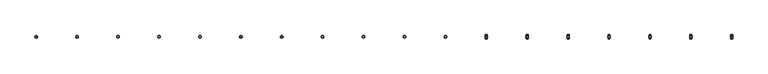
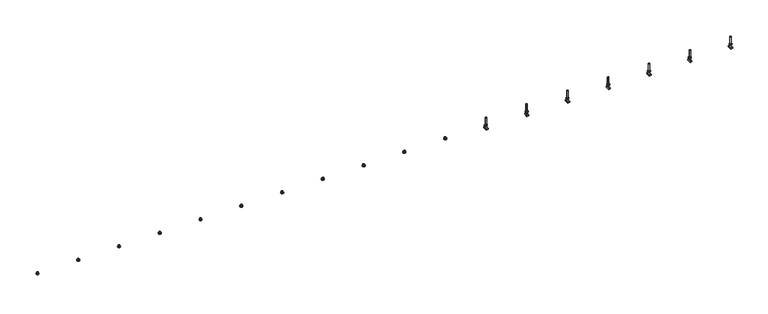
"""IFC4 building model written with IfcOpenShell, lengths in millimetres: fastener geometry, JTA-K JORDAHL® AnchorChannels : JTA-K L=6000 mm."""

from ifc_helpers import new_model, si_unit, point, frame, frame_2d, origin, place, context, project, spatial, polyline, circle_curve, trimmed, segment, composite_curve, outline, extrude, source, transform, mapped, element, save
from ifc_brep_helpers import plane_surface, cylinder_surface, advanced_brep


def fastener_92da6513(model_context):
    return source(origin(), model_context, "Body", "SolidModel", [
        extrude(outline(polyline([(5617.1052632, 9.2376043), (5625.1052632, 4.6188022), (5625.1052632, -4.6188022), (5617.1052632, -9.2376043), (5609.1052632, -4.6188022), (5609.1052632, 4.6188022), (5617.1052632, 9.2376043)]), holes=[composite_curve([segment(trimmed(circle_curve(frame_2d((5617.1052632, 0.0)), 5.0), [point((5612.1052632, 0.0))], [point((5622.1052632, 0.0))], True, "CARTESIAN"), True, "CONTINUOUS"), segment(trimmed(circle_curve(frame_2d((5617.1052632, 0.0)), 5.0), [point((5622.1052632, 0.0))], [point((5612.1052632, 0.0))], True, "CARTESIAN"), True, "CONTINUOUS")], self_intersect=False)]), frame((0.0, 0.0, 17.0), z_axis=(0.0, 0.0, 1.0), x_axis=(1.0, 0.0, 0.0)), (0.0, 0.0, 1.0), 8.4),
        extrude(outline(composite_curve([segment(trimmed(circle_curve(frame_2d((5617.1052632, 0.0)), 10.0), [point((5607.1052632, 0.0))], [point((5627.1052632, 0.0))], False, "CARTESIAN"), True, "CONTINUOUS"), segment(trimmed(circle_curve(frame_2d((5617.1052632, 0.0)), 10.0), [point((5627.1052632, 0.0))], [point((5607.1052632, 0.0))], False, "CARTESIAN"), True, "CONTINUOUS")], self_intersect=False), holes=[composite_curve([segment(trimmed(circle_curve(frame_2d((5617.1052632, 0.0)), 5.25), [point((5611.8552632, 0.0))], [point((5622.3552632, 0.0))], True, "CARTESIAN"), True, "CONTINUOUS"), segment(trimmed(circle_curve(frame_2d((5617.1052632, 0.0)), 5.25), [point((5622.3552632, 0.0))], [point((5611.8552632, 0.0))], True, "CARTESIAN"), True, "CONTINUOUS")], self_intersect=False)]), frame((0.0, 0.0, 15.0), z_axis=(0.0, 0.0, 1.0), x_axis=(1.0, 0.0, 0.0)), (0.0, 0.0, 1.0), 2.0),
        extrude(outline(polyline([(5309.2105263, 9.2376043), (5317.2105263, 4.6188022), (5317.2105263, -4.6188022), (5309.2105263, -9.2376043), (5301.2105263, -4.6188022), (5301.2105263, 4.6188022), (5309.2105263, 9.2376043)]), holes=[composite_curve([segment(trimmed(circle_curve(frame_2d((5309.2105263, 0.0)), 5.0), [point((5304.2105263, 0.0))], [point((5314.2105263, 0.0))], True, "CARTESIAN"), True, "CONTINUOUS"), segment(trimmed(circle_curve(frame_2d((5309.2105263, 0.0)), 5.0), [point((5314.2105263, 0.0))], [point((5304.2105263, 0.0))], True, "CARTESIAN"), True, "CONTINUOUS")], self_intersect=False)]), frame((0.0, 0.0, 17.0), z_axis=(0.0, 0.0, 1.0), x_axis=(1.0, 0.0, 0.0)), (0.0, 0.0, 1.0), 8.4),
        extrude(outline(composite_curve([segment(trimmed(circle_curve(frame_2d((5309.2105263, 0.0)), 10.0), [point((5299.2105263, 0.0))], [point((5319.2105263, 0.0))], False, "CARTESIAN"), True, "CONTINUOUS"), segment(trimmed(circle_curve(frame_2d((5309.2105263, 0.0)), 10.0), [point((5319.2105263, 0.0))], [point((5299.2105263, 0.0))], False, "CARTESIAN"), True, "CONTINUOUS")], self_intersect=False), holes=[composite_curve([segment(trimmed(circle_curve(frame_2d((5309.2105263, 0.0)), 5.25), [point((5303.9605263, 0.0))], [point((5314.4605263, 0.0))], True, "CARTESIAN"), True, "CONTINUOUS"), segment(trimmed(circle_curve(frame_2d((5309.2105263, 0.0)), 5.25), [point((5314.4605263, 0.0))], [point((5303.9605263, 0.0))], True, "CARTESIAN"), True, "CONTINUOUS")], self_intersect=False)]), frame((0.0, 0.0, 15.0), z_axis=(0.0, 0.0, 1.0), x_axis=(1.0, 0.0, 0.0)), (0.0, 0.0, 1.0), 2.0),
        extrude(outline(polyline([(5001.3157895, 9.2376043), (5009.3157895, 4.6188022), (5009.3157895, -4.6188022), (5001.3157895, -9.2376043), (4993.3157895, -4.6188022), (4993.3157895, 4.6188022), (5001.3157895, 9.2376043)]), holes=[composite_curve([segment(trimmed(circle_curve(frame_2d((5001.3157895, 0.0)), 5.0), [point((4996.3157895, 0.0))], [point((5006.3157895, 0.0))], True, "CARTESIAN"), True, "CONTINUOUS"), segment(trimmed(circle_curve(frame_2d((5001.3157895, 0.0)), 5.0), [point((5006.3157895, 0.0))], [point((4996.3157895, 0.0))], True, "CARTESIAN"), True, "CONTINUOUS")], self_intersect=False)]), frame((0.0, 0.0, 17.0), z_axis=(0.0, 0.0, 1.0), x_axis=(1.0, 0.0, 0.0)), (0.0, 0.0, 1.0), 8.4),
        extrude(outline(composite_curve([segment(trimmed(circle_curve(frame_2d((5001.3157895, 0.0)), 10.0), [point((4991.3157895, 0.0))], [point((5011.3157895, 0.0))], False, "CARTESIAN"), True, "CONTINUOUS"), segment(trimmed(circle_curve(frame_2d((5001.3157895, 0.0)), 10.0), [point((5011.3157895, 0.0))], [point((4991.3157895, 0.0))], False, "CARTESIAN"), True, "CONTINUOUS")], self_intersect=False), holes=[composite_curve([segment(trimmed(circle_curve(frame_2d((5001.3157895, 0.0)), 5.25), [point((4996.0657895, 0.0))], [point((5006.5657895, 0.0))], True, "CARTESIAN"), True, "CONTINUOUS"), segment(trimmed(circle_curve(frame_2d((5001.3157895, 0.0)), 5.25), [point((5006.5657895, 0.0))], [point((4996.0657895, 0.0))], True, "CARTESIAN"), True, "CONTINUOUS")], self_intersect=False)]), frame((0.0, 0.0, 15.0), z_axis=(0.0, 0.0, 1.0), x_axis=(1.0, 0.0, 0.0)), (0.0, 0.0, 1.0), 2.0),
        extrude(outline(polyline([(4693.4210526, 9.2376043), (4701.4210526, 4.6188022), (4701.4210526, -4.6188022), (4693.4210526, -9.2376043), (4685.4210526, -4.6188022), (4685.4210526, 4.6188022), (4693.4210526, 9.2376043)]), holes=[composite_curve([segment(trimmed(circle_curve(frame_2d((4693.4210526, 0.0)), 5.0), [point((4688.4210526, 0.0))], [point((4698.4210526, 0.0))], True, "CARTESIAN"), True, "CONTINUOUS"), segment(trimmed(circle_curve(frame_2d((4693.4210526, 0.0)), 5.0), [point((4698.4210526, 0.0))], [point((4688.4210526, 0.0))], True, "CARTESIAN"), True, "CONTINUOUS")], self_intersect=False)]), frame((0.0, 0.0, 17.0), z_axis=(0.0, 0.0, 1.0), x_axis=(1.0, 0.0, 0.0)), (0.0, 0.0, 1.0), 8.4),
        extrude(outline(composite_curve([segment(trimmed(circle_curve(frame_2d((4693.4210526, 0.0)), 10.0), [point((4683.4210526, 0.0))], [point((4703.4210526, 0.0))], False, "CARTESIAN"), True, "CONTINUOUS"), segment(trimmed(circle_curve(frame_2d((4693.4210526, 0.0)), 10.0), [point((4703.4210526, 0.0))], [point((4683.4210526, 0.0))], False, "CARTESIAN"), True, "CONTINUOUS")], self_intersect=False), holes=[composite_curve([segment(trimmed(circle_curve(frame_2d((4693.4210526, 0.0)), 5.25), [point((4688.1710526, 0.0))], [point((4698.6710526, 0.0))], True, "CARTESIAN"), True, "CONTINUOUS"), segment(trimmed(circle_curve(frame_2d((4693.4210526, 0.0)), 5.25), [point((4698.6710526, 0.0))], [point((4688.1710526, 0.0))], True, "CARTESIAN"), True, "CONTINUOUS")], self_intersect=False)]), frame((0.0, 0.0, 15.0), z_axis=(0.0, 0.0, 1.0), x_axis=(1.0, 0.0, 0.0)), (0.0, 0.0, 1.0), 2.0),
        extrude(outline(polyline([(4385.5263158, 9.2376043), (4393.5263158, 4.6188022), (4393.5263158, -4.6188022), (4385.5263158, -9.2376043), (4377.5263158, -4.6188022), (4377.5263158, 4.6188022), (4385.5263158, 9.2376043)]), holes=[composite_curve([segment(trimmed(circle_curve(frame_2d((4385.5263158, 0.0)), 5.0), [point((4380.5263158, 0.0))], [point((4390.5263158, 0.0))], True, "CARTESIAN"), True, "CONTINUOUS"), segment(trimmed(circle_curve(frame_2d((4385.5263158, 0.0)), 5.0), [point((4390.5263158, 0.0))], [point((4380.5263158, 0.0))], True, "CARTESIAN"), True, "CONTINUOUS")], self_intersect=False)]), frame((0.0, 0.0, 17.0), z_axis=(0.0, 0.0, 1.0), x_axis=(1.0, 0.0, 0.0)), (0.0, 0.0, 1.0), 8.4),
        extrude(outline(composite_curve([segment(trimmed(circle_curve(frame_2d((4385.5263158, 0.0)), 10.0), [point((4375.5263158, 0.0))], [point((4395.5263158, 0.0))], False, "CARTESIAN"), True, "CONTINUOUS"), segment(trimmed(circle_curve(frame_2d((4385.5263158, 0.0)), 10.0), [point((4395.5263158, 0.0))], [point((4375.5263158, 0.0))], False, "CARTESIAN"), True, "CONTINUOUS")], self_intersect=False), holes=[composite_curve([segment(trimmed(circle_curve(frame_2d((4385.5263158, 0.0)), 5.25), [point((4380.2763158, 0.0))], [point((4390.7763158, 0.0))], True, "CARTESIAN"), True, "CONTINUOUS"), segment(trimmed(circle_curve(frame_2d((4385.5263158, 0.0)), 5.25), [point((4390.7763158, 0.0))], [point((4380.2763158, 0.0))], True, "CARTESIAN"), True, "CONTINUOUS")], self_intersect=False)]), frame((0.0, 0.0, 15.0), z_axis=(0.0, 0.0, 1.0), x_axis=(1.0, 0.0, 0.0)), (0.0, 0.0, 1.0), 2.0),
        extrude(outline(polyline([(4077.6315789, 9.2376043), (4085.6315789, 4.6188022), (4085.6315789, -4.6188022), (4077.6315789, -9.2376043), (4069.6315789, -4.6188022), (4069.6315789, 4.6188022), (4077.6315789, 9.2376043)]), holes=[composite_curve([segment(trimmed(circle_curve(frame_2d((4077.6315789, 0.0)), 5.0), [point((4072.6315789, 0.0))], [point((4082.6315789, 0.0))], True, "CARTESIAN"), True, "CONTINUOUS"), segment(trimmed(circle_curve(frame_2d((4077.6315789, 0.0)), 5.0), [point((4082.6315789, 0.0))], [point((4072.6315789, 0.0))], True, "CARTESIAN"), True, "CONTINUOUS")], self_intersect=False)]), frame((0.0, 0.0, 17.0), z_axis=(0.0, 0.0, 1.0), x_axis=(1.0, 0.0, 0.0)), (0.0, 0.0, 1.0), 8.4),
        extrude(outline(composite_curve([segment(trimmed(circle_curve(frame_2d((4077.6315789, 0.0)), 10.0), [point((4067.6315789, 0.0))], [point((4087.6315789, 0.0))], False, "CARTESIAN"), True, "CONTINUOUS"), segment(trimmed(circle_curve(frame_2d((4077.6315789, 0.0)), 10.0), [point((4087.6315789, 0.0))], [point((4067.6315789, 0.0))], False, "CARTESIAN"), True, "CONTINUOUS")], self_intersect=False), holes=[composite_curve([segment(trimmed(circle_curve(frame_2d((4077.6315789, 0.0)), 5.25), [point((4072.3815789, 0.0))], [point((4082.8815789, 0.0))], True, "CARTESIAN"), True, "CONTINUOUS"), segment(trimmed(circle_curve(frame_2d((4077.6315789, 0.0)), 5.25), [point((4082.8815789, 0.0))], [point((4072.3815789, 0.0))], True, "CARTESIAN"), True, "CONTINUOUS")], self_intersect=False)]), frame((0.0, 0.0, 15.0), z_axis=(0.0, 0.0, 1.0), x_axis=(1.0, 0.0, 0.0)), (0.0, 0.0, 1.0), 2.0),
        extrude(outline(polyline([(3769.7368421, 9.2376043), (3777.7368421, 4.6188022), (3777.7368421, -4.6188022), (3769.7368421, -9.2376043), (3761.7368421, -4.6188022), (3761.7368421, 4.6188022), (3769.7368421, 9.2376043)]), holes=[composite_curve([segment(trimmed(circle_curve(frame_2d((3769.7368421, 0.0)), 5.0), [point((3764.7368421, 0.0))], [point((3774.7368421, 0.0))], True, "CARTESIAN"), True, "CONTINUOUS"), segment(trimmed(circle_curve(frame_2d((3769.7368421, 0.0)), 5.0), [point((3774.7368421, 0.0))], [point((3764.7368421, 0.0))], True, "CARTESIAN"), True, "CONTINUOUS")], self_intersect=False)]), frame((0.0, 0.0, 17.0), z_axis=(0.0, 0.0, 1.0), x_axis=(1.0, 0.0, 0.0)), (0.0, 0.0, 1.0), 8.4),
        extrude(outline(composite_curve([segment(trimmed(circle_curve(frame_2d((3769.7368421, 0.0)), 10.0), [point((3759.7368421, 0.0))], [point((3779.7368421, 0.0))], False, "CARTESIAN"), True, "CONTINUOUS"), segment(trimmed(circle_curve(frame_2d((3769.7368421, 0.0)), 10.0), [point((3779.7368421, 0.0))], [point((3759.7368421, 0.0))], False, "CARTESIAN"), True, "CONTINUOUS")], self_intersect=False), holes=[composite_curve([segment(trimmed(circle_curve(frame_2d((3769.7368421, 0.0)), 5.25), [point((3764.4868421, 0.0))], [point((3774.9868421, 0.0))], True, "CARTESIAN"), True, "CONTINUOUS"), segment(trimmed(circle_curve(frame_2d((3769.7368421, 0.0)), 5.25), [point((3774.9868421, 0.0))], [point((3764.4868421, 0.0))], True, "CARTESIAN"), True, "CONTINUOUS")], self_intersect=False)]), frame((0.0, 0.0, 15.0), z_axis=(0.0, 0.0, 1.0), x_axis=(1.0, 0.0, 0.0)), (0.0, 0.0, 1.0), 2.0),
        extrude(outline(polyline([(3461.8421053, 9.2376043), (3469.8421053, 4.6188022), (3469.8421053, -4.6188022), (3461.8421053, -9.2376043), (3453.8421053, -4.6188022), (3453.8421053, 4.6188022), (3461.8421053, 9.2376043)]), holes=[composite_curve([segment(trimmed(circle_curve(frame_2d((3461.8421053, 0.0)), 5.0), [point((3456.8421053, 0.0))], [point((3466.8421053, 0.0))], True, "CARTESIAN"), True, "CONTINUOUS"), segment(trimmed(circle_curve(frame_2d((3461.8421053, 0.0)), 5.0), [point((3466.8421053, 0.0))], [point((3456.8421053, 0.0))], True, "CARTESIAN"), True, "CONTINUOUS")], self_intersect=False)]), frame((0.0, 0.0, 17.0), z_axis=(0.0, 0.0, 1.0), x_axis=(1.0, 0.0, 0.0)), (0.0, 0.0, 1.0), 8.4),
        extrude(outline(composite_curve([segment(trimmed(circle_curve(frame_2d((3461.8421053, 0.0)), 10.0), [point((3451.8421053, 0.0))], [point((3471.8421053, 0.0))], False, "CARTESIAN"), True, "CONTINUOUS"), segment(trimmed(circle_curve(frame_2d((3461.8421053, 0.0)), 10.0), [point((3471.8421053, 0.0))], [point((3451.8421053, 0.0))], False, "CARTESIAN"), True, "CONTINUOUS")], self_intersect=False), holes=[composite_curve([segment(trimmed(circle_curve(frame_2d((3461.8421053, 0.0)), 5.25), [point((3456.5921053, 0.0))], [point((3467.0921053, 0.0))], True, "CARTESIAN"), True, "CONTINUOUS"), segment(trimmed(circle_curve(frame_2d((3461.8421053, 0.0)), 5.25), [point((3467.0921053, 0.0))], [point((3456.5921053, 0.0))], True, "CARTESIAN"), True, "CONTINUOUS")], self_intersect=False)]), frame((0.0, 0.0, 15.0), z_axis=(0.0, 0.0, 1.0), x_axis=(1.0, 0.0, 0.0)), (0.0, 0.0, 1.0), 2.0),
        extrude(outline(polyline([(3153.9473684, 9.2376043), (3161.9473684, 4.6188022), (3161.9473684, -4.6188022), (3153.9473684, -9.2376043), (3145.9473684, -4.6188022), (3145.9473684, 4.6188022), (3153.9473684, 9.2376043)]), holes=[composite_curve([segment(trimmed(circle_curve(frame_2d((3153.9473684, 0.0)), 5.0), [point((3148.9473684, 0.0))], [point((3158.9473684, 0.0))], True, "CARTESIAN"), True, "CONTINUOUS"), segment(trimmed(circle_curve(frame_2d((3153.9473684, 0.0)), 5.0), [point((3158.9473684, 0.0))], [point((3148.9473684, 0.0))], True, "CARTESIAN"), True, "CONTINUOUS")], self_intersect=False)]), frame((0.0, 0.0, 17.0), z_axis=(0.0, 0.0, 1.0), x_axis=(1.0, 0.0, 0.0)), (0.0, 0.0, 1.0), 8.4),
        extrude(outline(composite_curve([segment(trimmed(circle_curve(frame_2d((3153.9473684, 0.0)), 10.0), [point((3143.9473684, 0.0))], [point((3163.9473684, 0.0))], False, "CARTESIAN"), True, "CONTINUOUS"), segment(trimmed(circle_curve(frame_2d((3153.9473684, 0.0)), 10.0), [point((3163.9473684, 0.0))], [point((3143.9473684, 0.0))], False, "CARTESIAN"), True, "CONTINUOUS")], self_intersect=False), holes=[composite_curve([segment(trimmed(circle_curve(frame_2d((3153.9473684, 0.0)), 5.25), [point((3148.6973684, 0.0))], [point((3159.1973684, 0.0))], True, "CARTESIAN"), True, "CONTINUOUS"), segment(trimmed(circle_curve(frame_2d((3153.9473684, 0.0)), 5.25), [point((3159.1973684, 0.0))], [point((3148.6973684, 0.0))], True, "CARTESIAN"), True, "CONTINUOUS")], self_intersect=False)]), frame((0.0, 0.0, 15.0), z_axis=(0.0, 0.0, 1.0), x_axis=(1.0, 0.0, 0.0)), (0.0, 0.0, 1.0), 2.0),
        extrude(outline(polyline([(2846.0526316, 9.2376043), (2854.0526316, 4.6188022), (2854.0526316, -4.6188022), (2846.0526316, -9.2376043), (2838.0526316, -4.6188022), (2838.0526316, 4.6188022), (2846.0526316, 9.2376043)]), holes=[composite_curve([segment(trimmed(circle_curve(frame_2d((2846.0526316, 0.0)), 5.0), [point((2841.0526316, 0.0))], [point((2851.0526316, 0.0))], True, "CARTESIAN"), True, "CONTINUOUS"), segment(trimmed(circle_curve(frame_2d((2846.0526316, 0.0)), 5.0), [point((2851.0526316, 0.0))], [point((2841.0526316, 0.0))], True, "CARTESIAN"), True, "CONTINUOUS")], self_intersect=False)]), frame((0.0, 0.0, 17.0), z_axis=(0.0, 0.0, 1.0), x_axis=(1.0, 0.0, 0.0)), (0.0, 0.0, 1.0), 8.4),
        extrude(outline(composite_curve([segment(trimmed(circle_curve(frame_2d((2846.0526316, 0.0)), 10.0), [point((2836.0526316, 0.0))], [point((2856.0526316, 0.0))], False, "CARTESIAN"), True, "CONTINUOUS"), segment(trimmed(circle_curve(frame_2d((2846.0526316, 0.0)), 10.0), [point((2856.0526316, 0.0))], [point((2836.0526316, 0.0))], False, "CARTESIAN"), True, "CONTINUOUS")], self_intersect=False), holes=[composite_curve([segment(trimmed(circle_curve(frame_2d((2846.0526316, 0.0)), 5.25), [point((2840.8026316, 0.0))], [point((2851.3026316, 0.0))], True, "CARTESIAN"), True, "CONTINUOUS"), segment(trimmed(circle_curve(frame_2d((2846.0526316, 0.0)), 5.25), [point((2851.3026316, 0.0))], [point((2840.8026316, 0.0))], True, "CARTESIAN"), True, "CONTINUOUS")], self_intersect=False)]), frame((0.0, 0.0, 15.0), z_axis=(0.0, 0.0, 1.0), x_axis=(1.0, 0.0, 0.0)), (0.0, 0.0, 1.0), 2.0),
        extrude(outline(polyline([(2538.1578947, 9.2376043), (2546.1578947, 4.6188022), (2546.1578947, -4.6188022), (2538.1578947, -9.2376043), (2530.1578947, -4.6188022), (2530.1578947, 4.6188022), (2538.1578947, 9.2376043)]), holes=[composite_curve([segment(trimmed(circle_curve(frame_2d((2538.1578947, 0.0)), 5.0), [point((2533.1578947, 0.0))], [point((2543.1578947, 0.0))], True, "CARTESIAN"), True, "CONTINUOUS"), segment(trimmed(circle_curve(frame_2d((2538.1578947, 0.0)), 5.0), [point((2543.1578947, 0.0))], [point((2533.1578947, 0.0))], True, "CARTESIAN"), True, "CONTINUOUS")], self_intersect=False)]), frame((0.0, 0.0, 17.0), z_axis=(0.0, 0.0, 1.0), x_axis=(1.0, 0.0, 0.0)), (0.0, 0.0, 1.0), 8.4),
        extrude(outline(composite_curve([segment(trimmed(circle_curve(frame_2d((2538.1578947, 0.0)), 10.0), [point((2528.1578947, 0.0))], [point((2548.1578947, 0.0))], False, "CARTESIAN"), True, "CONTINUOUS"), segment(trimmed(circle_curve(frame_2d((2538.1578947, 0.0)), 10.0), [point((2548.1578947, 0.0))], [point((2528.1578947, 0.0))], False, "CARTESIAN"), True, "CONTINUOUS")], self_intersect=False), holes=[composite_curve([segment(trimmed(circle_curve(frame_2d((2538.1578947, 0.0)), 5.25), [point((2532.9078947, 0.0))], [point((2543.4078947, 0.0))], True, "CARTESIAN"), True, "CONTINUOUS"), segment(trimmed(circle_curve(frame_2d((2538.1578947, 0.0)), 5.25), [point((2543.4078947, 0.0))], [point((2532.9078947, 0.0))], True, "CARTESIAN"), True, "CONTINUOUS")], self_intersect=False)]), frame((0.0, 0.0, 15.0), z_axis=(0.0, 0.0, 1.0), x_axis=(1.0, 0.0, 0.0)), (0.0, 0.0, 1.0), 2.0),
        extrude(outline(polyline([(2230.2631579, 9.2376043), (2238.2631579, 4.6188022), (2238.2631579, -4.6188022), (2230.2631579, -9.2376043), (2222.2631579, -4.6188022), (2222.2631579, 4.6188022), (2230.2631579, 9.2376043)]), holes=[composite_curve([segment(trimmed(circle_curve(frame_2d((2230.2631579, 0.0)), 5.0), [point((2225.2631579, 0.0))], [point((2235.2631579, 0.0))], True, "CARTESIAN"), True, "CONTINUOUS"), segment(trimmed(circle_curve(frame_2d((2230.2631579, 0.0)), 5.0), [point((2235.2631579, 0.0))], [point((2225.2631579, 0.0))], True, "CARTESIAN"), True, "CONTINUOUS")], self_intersect=False)]), frame((0.0, 0.0, 17.0), z_axis=(0.0, 0.0, 1.0), x_axis=(1.0, 0.0, 0.0)), (0.0, 0.0, 1.0), 8.4),
        extrude(outline(composite_curve([segment(trimmed(circle_curve(frame_2d((2230.2631579, 0.0)), 10.0), [point((2220.2631579, 0.0))], [point((2240.2631579, 0.0))], False, "CARTESIAN"), True, "CONTINUOUS"), segment(trimmed(circle_curve(frame_2d((2230.2631579, 0.0)), 10.0), [point((2240.2631579, 0.0))], [point((2220.2631579, 0.0))], False, "CARTESIAN"), True, "CONTINUOUS")], self_intersect=False), holes=[composite_curve([segment(trimmed(circle_curve(frame_2d((2230.2631579, 0.0)), 5.25), [point((2225.0131579, 0.0))], [point((2235.5131579, 0.0))], True, "CARTESIAN"), True, "CONTINUOUS"), segment(trimmed(circle_curve(frame_2d((2230.2631579, 0.0)), 5.25), [point((2235.5131579, 0.0))], [point((2225.0131579, 0.0))], True, "CARTESIAN"), True, "CONTINUOUS")], self_intersect=False)]), frame((0.0, 0.0, 15.0), z_axis=(0.0, 0.0, 1.0), x_axis=(1.0, 0.0, 0.0)), (0.0, 0.0, 1.0), 2.0),
        extrude(outline(polyline([(1922.3684211, 9.2376043), (1930.3684211, 4.6188022), (1930.3684211, -4.6188022), (1922.3684211, -9.2376043), (1914.3684211, -4.6188022), (1914.3684211, 4.6188022), (1922.3684211, 9.2376043)]), holes=[composite_curve([segment(trimmed(circle_curve(frame_2d((1922.3684211, 0.0)), 5.0), [point((1917.3684211, 0.0))], [point((1927.3684211, 0.0))], True, "CARTESIAN"), True, "CONTINUOUS"), segment(trimmed(circle_curve(frame_2d((1922.3684211, 0.0)), 5.0), [point((1927.3684211, 0.0))], [point((1917.3684211, 0.0))], True, "CARTESIAN"), True, "CONTINUOUS")], self_intersect=False)]), frame((0.0, 0.0, 17.0), z_axis=(0.0, 0.0, 1.0), x_axis=(1.0, 0.0, 0.0)), (0.0, 0.0, 1.0), 8.4),
        extrude(outline(composite_curve([segment(trimmed(circle_curve(frame_2d((1922.3684211, 0.0)), 10.0), [point((1912.3684211, 0.0))], [point((1932.3684211, 0.0))], False, "CARTESIAN"), True, "CONTINUOUS"), segment(trimmed(circle_curve(frame_2d((1922.3684211, 0.0)), 10.0), [point((1932.3684211, 0.0))], [point((1912.3684211, 0.0))], False, "CARTESIAN"), True, "CONTINUOUS")], self_intersect=False), holes=[composite_curve([segment(trimmed(circle_curve(frame_2d((1922.3684211, 0.0)), 5.25), [point((1917.1184211, 0.0))], [point((1927.6184211, 0.0))], True, "CARTESIAN"), True, "CONTINUOUS"), segment(trimmed(circle_curve(frame_2d((1922.3684211, 0.0)), 5.25), [point((1927.6184211, 0.0))], [point((1917.1184211, 0.0))], True, "CARTESIAN"), True, "CONTINUOUS")], self_intersect=False)]), frame((0.0, 0.0, 15.0), z_axis=(0.0, 0.0, 1.0), x_axis=(1.0, 0.0, 0.0)), (0.0, 0.0, 1.0), 2.0),
        extrude(outline(polyline([(1614.4736842, 9.2376043), (1622.4736842, 4.6188022), (1622.4736842, -4.6188022), (1614.4736842, -9.2376043), (1606.4736842, -4.6188022), (1606.4736842, 4.6188022), (1614.4736842, 9.2376043)]), holes=[composite_curve([segment(trimmed(circle_curve(frame_2d((1614.4736842, 0.0)), 5.0), [point((1609.4736842, 0.0))], [point((1619.4736842, 0.0))], True, "CARTESIAN"), True, "CONTINUOUS"), segment(trimmed(circle_curve(frame_2d((1614.4736842, 0.0)), 5.0), [point((1619.4736842, 0.0))], [point((1609.4736842, 0.0))], True, "CARTESIAN"), True, "CONTINUOUS")], self_intersect=False)]), frame((0.0, 0.0, 17.0), z_axis=(0.0, 0.0, 1.0), x_axis=(1.0, 0.0, 0.0)), (0.0, 0.0, 1.0), 8.4),
        extrude(outline(composite_curve([segment(trimmed(circle_curve(frame_2d((1614.4736842, 0.0)), 10.0), [point((1604.4736842, 0.0))], [point((1624.4736842, 0.0))], False, "CARTESIAN"), True, "CONTINUOUS"), segment(trimmed(circle_curve(frame_2d((1614.4736842, 0.0)), 10.0), [point((1624.4736842, 0.0))], [point((1604.4736842, 0.0))], False, "CARTESIAN"), True, "CONTINUOUS")], self_intersect=False), holes=[composite_curve([segment(trimmed(circle_curve(frame_2d((1614.4736842, 0.0)), 5.25), [point((1609.2236842, 0.0))], [point((1619.7236842, 0.0))], True, "CARTESIAN"), True, "CONTINUOUS"), segment(trimmed(circle_curve(frame_2d((1614.4736842, 0.0)), 5.25), [point((1619.7236842, 0.0))], [point((1609.2236842, 0.0))], True, "CARTESIAN"), True, "CONTINUOUS")], self_intersect=False)]), frame((0.0, 0.0, 15.0), z_axis=(0.0, 0.0, 1.0), x_axis=(1.0, 0.0, 0.0)), (0.0, 0.0, 1.0), 2.0),
        extrude(outline(polyline([(1306.5789474, 9.2376043), (1314.5789474, 4.6188022), (1314.5789474, -4.6188022), (1306.5789474, -9.2376043), (1298.5789474, -4.6188022), (1298.5789474, 4.6188022), (1306.5789474, 9.2376043)]), holes=[composite_curve([segment(trimmed(circle_curve(frame_2d((1306.5789474, 0.0)), 5.0), [point((1301.5789474, 0.0))], [point((1311.5789474, 0.0))], True, "CARTESIAN"), True, "CONTINUOUS"), segment(trimmed(circle_curve(frame_2d((1306.5789474, 0.0)), 5.0), [point((1311.5789474, 0.0))], [point((1301.5789474, 0.0))], True, "CARTESIAN"), True, "CONTINUOUS")], self_intersect=False)]), frame((0.0, 0.0, 17.0), z_axis=(0.0, 0.0, 1.0), x_axis=(1.0, 0.0, 0.0)), (0.0, 0.0, 1.0), 8.4),
        extrude(outline(composite_curve([segment(trimmed(circle_curve(frame_2d((1306.5789474, 0.0)), 10.0), [point((1296.5789474, 0.0))], [point((1316.5789474, 0.0))], False, "CARTESIAN"), True, "CONTINUOUS"), segment(trimmed(circle_curve(frame_2d((1306.5789474, 0.0)), 10.0), [point((1316.5789474, 0.0))], [point((1296.5789474, 0.0))], False, "CARTESIAN"), True, "CONTINUOUS")], self_intersect=False), holes=[composite_curve([segment(trimmed(circle_curve(frame_2d((1306.5789474, 0.0)), 5.25), [point((1301.3289474, 0.0))], [point((1311.8289474, 0.0))], True, "CARTESIAN"), True, "CONTINUOUS"), segment(trimmed(circle_curve(frame_2d((1306.5789474, 0.0)), 5.25), [point((1311.8289474, 0.0))], [point((1301.3289474, 0.0))], True, "CARTESIAN"), True, "CONTINUOUS")], self_intersect=False)]), frame((0.0, 0.0, 15.0), z_axis=(0.0, 0.0, 1.0), x_axis=(1.0, 0.0, 0.0)), (0.0, 0.0, 1.0), 2.0),
        extrude(outline(polyline([(998.6842105, 9.2376043), (1006.6842105, 4.6188022), (1006.6842105, -4.6188022), (998.6842105, -9.2376043), (990.6842105, -4.6188022), (990.6842105, 4.6188022), (998.6842105, 9.2376043)]), holes=[composite_curve([segment(trimmed(circle_curve(frame_2d((998.6842105, 0.0)), 5.0), [point((993.6842105, 0.0))], [point((1003.6842105, 0.0))], True, "CARTESIAN"), True, "CONTINUOUS"), segment(trimmed(circle_curve(frame_2d((998.6842105, 0.0)), 5.0), [point((1003.6842105, 0.0))], [point((993.6842105, 0.0))], True, "CARTESIAN"), True, "CONTINUOUS")], self_intersect=False)]), frame((0.0, 0.0, 17.0), z_axis=(0.0, 0.0, 1.0), x_axis=(1.0, 0.0, 0.0)), (0.0, 0.0, 1.0), 8.4),
        extrude(outline(composite_curve([segment(trimmed(circle_curve(frame_2d((998.6842105, 0.0)), 10.0), [point((988.6842105, 0.0))], [point((1008.6842105, 0.0))], False, "CARTESIAN"), True, "CONTINUOUS"), segment(trimmed(circle_curve(frame_2d((998.6842105, 0.0)), 10.0), [point((1008.6842105, 0.0))], [point((988.6842105, 0.0))], False, "CARTESIAN"), True, "CONTINUOUS")], self_intersect=False), holes=[composite_curve([segment(trimmed(circle_curve(frame_2d((998.6842105, 0.0)), 5.25), [point((993.4342105, 0.0))], [point((1003.9342105, 0.0))], True, "CARTESIAN"), True, "CONTINUOUS"), segment(trimmed(circle_curve(frame_2d((998.6842105, 0.0)), 5.25), [point((1003.9342105, 0.0))], [point((993.4342105, 0.0))], True, "CARTESIAN"), True, "CONTINUOUS")], self_intersect=False)]), frame((0.0, 0.0, 15.0), z_axis=(0.0, 0.0, 1.0), x_axis=(1.0, 0.0, 0.0)), (0.0, 0.0, 1.0), 2.0),
        extrude(outline(polyline([(690.7894737, 9.2376043), (698.7894737, 4.6188022), (698.7894737, -4.6188022), (690.7894737, -9.2376043), (682.7894737, -4.6188022), (682.7894737, 4.6188022), (690.7894737, 9.2376043)]), holes=[composite_curve([segment(trimmed(circle_curve(frame_2d((690.7894737, 0.0)), 5.0), [point((685.7894737, 0.0))], [point((695.7894737, 0.0))], True, "CARTESIAN"), True, "CONTINUOUS"), segment(trimmed(circle_curve(frame_2d((690.7894737, 0.0)), 5.0), [point((695.7894737, 0.0))], [point((685.7894737, 0.0))], True, "CARTESIAN"), True, "CONTINUOUS")], self_intersect=False)]), frame((0.0, 0.0, 17.0), z_axis=(0.0, 0.0, 1.0), x_axis=(1.0, 0.0, 0.0)), (0.0, 0.0, 1.0), 8.4),
        extrude(outline(composite_curve([segment(trimmed(circle_curve(frame_2d((690.7894737, 0.0)), 10.0), [point((680.7894737, 0.0))], [point((700.7894737, 0.0))], False, "CARTESIAN"), True, "CONTINUOUS"), segment(trimmed(circle_curve(frame_2d((690.7894737, 0.0)), 10.0), [point((700.7894737, 0.0))], [point((680.7894737, 0.0))], False, "CARTESIAN"), True, "CONTINUOUS")], self_intersect=False), holes=[composite_curve([segment(trimmed(circle_curve(frame_2d((690.7894737, 0.0)), 5.25), [point((685.5394737, 0.0))], [point((696.0394737, 0.0))], True, "CARTESIAN"), True, "CONTINUOUS"), segment(trimmed(circle_curve(frame_2d((690.7894737, 0.0)), 5.25), [point((696.0394737, 0.0))], [point((685.5394737, 0.0))], True, "CARTESIAN"), True, "CONTINUOUS")], self_intersect=False)]), frame((0.0, 0.0, 15.0), z_axis=(0.0, 0.0, 1.0), x_axis=(1.0, 0.0, 0.0)), (0.0, 0.0, 1.0), 2.0),
        extrude(outline(polyline([(382.8947368, 9.2376043), (390.8947368, 4.6188022), (390.8947368, -4.6188022), (382.8947368, -9.2376043), (374.8947368, -4.6188022), (374.8947368, 4.6188022), (382.8947368, 9.2376043)]), holes=[composite_curve([segment(trimmed(circle_curve(frame_2d((382.8947368, 0.0)), 5.0), [point((377.8947368, 0.0))], [point((387.8947368, 0.0))], True, "CARTESIAN"), True, "CONTINUOUS"), segment(trimmed(circle_curve(frame_2d((382.8947368, 0.0)), 5.0), [point((387.8947368, 0.0))], [point((377.8947368, 0.0))], True, "CARTESIAN"), True, "CONTINUOUS")], self_intersect=False)]), frame((0.0, 0.0, 17.0), z_axis=(0.0, 0.0, 1.0), x_axis=(1.0, 0.0, 0.0)), (0.0, 0.0, 1.0), 8.4),
        extrude(outline(composite_curve([segment(trimmed(circle_curve(frame_2d((382.8947368, 0.0)), 10.0), [point((372.8947368, 0.0))], [point((392.8947368, 0.0))], False, "CARTESIAN"), True, "CONTINUOUS"), segment(trimmed(circle_curve(frame_2d((382.8947368, 0.0)), 10.0), [point((392.8947368, 0.0))], [point((372.8947368, 0.0))], False, "CARTESIAN"), True, "CONTINUOUS")], self_intersect=False), holes=[composite_curve([segment(trimmed(circle_curve(frame_2d((382.8947368, 0.0)), 5.25), [point((377.6447368, 0.0))], [point((388.1447368, 0.0))], True, "CARTESIAN"), True, "CONTINUOUS"), segment(trimmed(circle_curve(frame_2d((382.8947368, 0.0)), 5.25), [point((388.1447368, 0.0))], [point((377.6447368, 0.0))], True, "CARTESIAN"), True, "CONTINUOUS")], self_intersect=False)]), frame((0.0, 0.0, 15.0), z_axis=(0.0, 0.0, 1.0), x_axis=(1.0, 0.0, 0.0)), (0.0, 0.0, 1.0), 2.0),
        advanced_brep(
        [(5624.1052632, 16.0, -3.0), (5624.1052632, -16.0, -3.0), (5624.1052632, -16.0, -11.0), (5624.1052632, 16.0, -11.0), (5610.1052632, 16.0, -3.0), (5610.1052632, 16.0, -11.0), (5610.1052632, -16.0, -11.0), (5610.1052632, -16.0, -3.0), (5622.1052632, 0.0, -3.0), (5612.1052632, 0.0, -3.0), (5612.1052632, 0.0, 77.0), (5622.1052632, 0.0, 77.0)],
        [
            (0, 1),
            (1, 2),
            (2, 3),
            (3, 0),
            (4, 5),
            (5, 6),
            (6, 7),
            (7, 4),
            (0, 4),
            (7, 1),
            (8, 9, circle_curve(frame((5617.1052632, 0.0, -3.0), z_axis=(0.0, 0.0, -1.0), x_axis=(1.0, 0.0, 0.0)), 5.0)),
            (9, 8, circle_curve(frame((5617.1052632, 0.0, -3.0), z_axis=(0.0, 0.0, -1.0), x_axis=(1.0, 0.0, 0.0)), 5.0)),
            (6, 2),
            (5, 3),
            (10, 11, circle_curve(frame((5617.1052632, 0.0, 77.0), z_axis=(0.0, 0.0, 1.0), x_axis=(1.0, 0.0, 0.0)), 5.0)),
            (11, 10, circle_curve(frame((5617.1052632, 0.0, 77.0), z_axis=(0.0, 0.0, 1.0), x_axis=(1.0, 0.0, 0.0)), 5.0)),
            (10, 9),
            (8, 11),
        ],
        [
            plane_surface(frame((5624.1052632, -16.0, -3.0), z_axis=(1.0, 0.0, 0.0), x_axis=(0.0, -1.0, 0.0))),
            plane_surface(frame((5610.1052632, -16.0, -3.0), z_axis=(-1.0, 0.0, 0.0), x_axis=(0.0, 1.0, 0.0))),
            plane_surface(frame((5624.1052632, 16.0, -3.0), z_axis=(0.0, 0.0, 1.0), x_axis=(-1.0, 0.0, 0.0))),
            plane_surface(frame((5624.1052632, -16.0, -3.0), z_axis=(0.0, -1.0, 0.0), x_axis=(-1.0, 0.0, 0.0))),
            plane_surface(frame((5624.1052632, -16.0, -11.0), z_axis=(0.0, 0.0, -1.0), x_axis=(-1.0, 0.0, 0.0))),
            plane_surface(frame((5624.1052632, 16.0, -11.0), z_axis=(0.0, 1.0, 0.0), x_axis=(-1.0, 0.0, 0.0))),
            plane_surface(frame((5622.1052632, 0.0, 77.0), z_axis=(0.0, 0.0, 1.0), x_axis=(0.0, 1.0, 0.0))),
            cylinder_surface(frame((5617.1052632, 0.0, -3.0), z_axis=(0.0, 0.0, 1.0), x_axis=(1.0, 0.0, 0.0)), 5.0),
        ],
        [
            (0, [[1, 2, 3, 4]]),
            (1, [[5, 6, 7, 8]]),
            (2, [[-1, 9, -8, 10], [11, 12]]),
            (3, [[-2, -10, -7, 13]]),
            (4, [[-3, -13, -6, 14]]),
            (5, [[-4, -14, -5, -9]]),
            (6, [[15, 16]]),
            (7, [[-15, 17, -11, 18]]),
            (7, [[-16, -18, -12, -17]]),
        ],
    ),
        advanced_brep(
        [(5316.2105263, 16.0, -3.0), (5316.2105263, -16.0, -3.0), (5316.2105263, -16.0, -11.0), (5316.2105263, 16.0, -11.0), (5302.2105263, 16.0, -3.0), (5302.2105263, 16.0, -11.0), (5302.2105263, -16.0, -11.0), (5302.2105263, -16.0, -3.0), (5314.2105263, 0.0, -3.0), (5304.2105263, 0.0, -3.0), (5304.2105263, 0.0, 77.0), (5314.2105263, 0.0, 77.0)],
        [
            (0, 1),
            (1, 2),
            (2, 3),
            (3, 0),
            (4, 5),
            (5, 6),
            (6, 7),
            (7, 4),
            (0, 4),
            (7, 1),
            (8, 9, circle_curve(frame((5309.2105263, 0.0, -3.0), z_axis=(0.0, 0.0, -1.0), x_axis=(1.0, 0.0, 0.0)), 5.0)),
            (9, 8, circle_curve(frame((5309.2105263, 0.0, -3.0), z_axis=(0.0, 0.0, -1.0), x_axis=(1.0, 0.0, 0.0)), 5.0)),
            (6, 2),
            (5, 3),
            (10, 11, circle_curve(frame((5309.2105263, 0.0, 77.0), z_axis=(0.0, 0.0, 1.0), x_axis=(1.0, 0.0, 0.0)), 5.0)),
            (11, 10, circle_curve(frame((5309.2105263, 0.0, 77.0), z_axis=(0.0, 0.0, 1.0), x_axis=(1.0, 0.0, 0.0)), 5.0)),
            (10, 9),
            (8, 11),
        ],
        [
            plane_surface(frame((5316.2105263, -16.0, -3.0), z_axis=(1.0, 0.0, 0.0), x_axis=(0.0, -1.0, 0.0))),
            plane_surface(frame((5302.2105263, -16.0, -3.0), z_axis=(-1.0, 0.0, 0.0), x_axis=(0.0, 1.0, 0.0))),
            plane_surface(frame((5316.2105263, 16.0, -3.0), z_axis=(0.0, 0.0, 1.0), x_axis=(-1.0, 0.0, 0.0))),
            plane_surface(frame((5316.2105263, -16.0, -3.0), z_axis=(0.0, -1.0, 0.0), x_axis=(-1.0, 0.0, 0.0))),
            plane_surface(frame((5316.2105263, -16.0, -11.0), z_axis=(0.0, 0.0, -1.0), x_axis=(-1.0, 0.0, 0.0))),
            plane_surface(frame((5316.2105263, 16.0, -11.0), z_axis=(0.0, 1.0, 0.0), x_axis=(-1.0, 0.0, 0.0))),
            plane_surface(frame((5314.2105263, 0.0, 77.0), z_axis=(0.0, 0.0, 1.0), x_axis=(0.0, 1.0, 0.0))),
            cylinder_surface(frame((5309.2105263, 0.0, -3.0), z_axis=(0.0, 0.0, 1.0), x_axis=(1.0, 0.0, 0.0)), 5.0),
        ],
        [
            (0, [[1, 2, 3, 4]]),
            (1, [[5, 6, 7, 8]]),
            (2, [[-1, 9, -8, 10], [11, 12]]),
            (3, [[-2, -10, -7, 13]]),
            (4, [[-3, -13, -6, 14]]),
            (5, [[-4, -14, -5, -9]]),
            (6, [[15, 16]]),
            (7, [[-15, 17, -11, 18]]),
            (7, [[-16, -18, -12, -17]]),
        ],
    ),
        advanced_brep(
        [(5008.3157895, 16.0, -3.0), (5008.3157895, -16.0, -3.0), (5008.3157895, -16.0, -11.0), (5008.3157895, 16.0, -11.0), (4994.3157895, 16.0, -3.0), (4994.3157895, 16.0, -11.0), (4994.3157895, -16.0, -11.0), (4994.3157895, -16.0, -3.0), (5006.3157895, 0.0, -3.0), (4996.3157895, 0.0, -3.0), (4996.3157895, 0.0, 77.0), (5006.3157895, 0.0, 77.0)],
        [
            (0, 1),
            (1, 2),
            (2, 3),
            (3, 0),
            (4, 5),
            (5, 6),
            (6, 7),
            (7, 4),
            (0, 4),
            (7, 1),
            (8, 9, circle_curve(frame((5001.3157895, 0.0, -3.0), z_axis=(0.0, 0.0, -1.0), x_axis=(1.0, 0.0, 0.0)), 5.0)),
            (9, 8, circle_curve(frame((5001.3157895, 0.0, -3.0), z_axis=(0.0, 0.0, -1.0), x_axis=(1.0, 0.0, 0.0)), 5.0)),
            (6, 2),
            (5, 3),
            (10, 11, circle_curve(frame((5001.3157895, 0.0, 77.0), z_axis=(0.0, 0.0, 1.0), x_axis=(1.0, 0.0, 0.0)), 5.0)),
            (11, 10, circle_curve(frame((5001.3157895, 0.0, 77.0), z_axis=(0.0, 0.0, 1.0), x_axis=(1.0, 0.0, 0.0)), 5.0)),
            (10, 9),
            (8, 11),
        ],
        [
            plane_surface(frame((5008.3157895, -16.0, -3.0), z_axis=(1.0, 0.0, 0.0), x_axis=(0.0, -1.0, 0.0))),
            plane_surface(frame((4994.3157895, -16.0, -3.0), z_axis=(-1.0, 0.0, 0.0), x_axis=(0.0, 1.0, 0.0))),
            plane_surface(frame((5008.3157895, 16.0, -3.0), z_axis=(0.0, 0.0, 1.0), x_axis=(-1.0, 0.0, 0.0))),
            plane_surface(frame((5008.3157895, -16.0, -3.0), z_axis=(0.0, -1.0, 0.0), x_axis=(-1.0, 0.0, 0.0))),
            plane_surface(frame((5008.3157895, -16.0, -11.0), z_axis=(0.0, 0.0, -1.0), x_axis=(-1.0, 0.0, 0.0))),
            plane_surface(frame((5008.3157895, 16.0, -11.0), z_axis=(0.0, 1.0, 0.0), x_axis=(-1.0, 0.0, 0.0))),
            plane_surface(frame((5006.3157895, 0.0, 77.0), z_axis=(0.0, 0.0, 1.0), x_axis=(0.0, 1.0, 0.0))),
            cylinder_surface(frame((5001.3157895, 0.0, -3.0), z_axis=(0.0, 0.0, 1.0), x_axis=(1.0, 0.0, 0.0)), 5.0),
        ],
        [
            (0, [[1, 2, 3, 4]]),
            (1, [[5, 6, 7, 8]]),
            (2, [[-1, 9, -8, 10], [11, 12]]),
            (3, [[-2, -10, -7, 13]]),
            (4, [[-3, -13, -6, 14]]),
            (5, [[-4, -14, -5, -9]]),
            (6, [[15, 16]]),
            (7, [[-15, 17, -11, 18]]),
            (7, [[-16, -18, -12, -17]]),
        ],
    ),
        advanced_brep(
        [(4700.4210526, 16.0, -3.0), (4700.4210526, -16.0, -3.0), (4700.4210526, -16.0, -11.0), (4700.4210526, 16.0, -11.0), (4686.4210526, 16.0, -3.0), (4686.4210526, 16.0, -11.0), (4686.4210526, -16.0, -11.0), (4686.4210526, -16.0, -3.0), (4698.4210526, 0.0, -3.0), (4688.4210526, 0.0, -3.0), (4688.4210526, 0.0, 77.0), (4698.4210526, 0.0, 77.0)],
        [
            (0, 1),
            (1, 2),
            (2, 3),
            (3, 0),
            (4, 5),
            (5, 6),
            (6, 7),
            (7, 4),
            (0, 4),
            (7, 1),
            (8, 9, circle_curve(frame((4693.4210526, 0.0, -3.0), z_axis=(0.0, 0.0, -1.0), x_axis=(1.0, 0.0, 0.0)), 5.0)),
            (9, 8, circle_curve(frame((4693.4210526, 0.0, -3.0), z_axis=(0.0, 0.0, -1.0), x_axis=(1.0, 0.0, 0.0)), 5.0)),
            (6, 2),
            (5, 3),
            (10, 11, circle_curve(frame((4693.4210526, 0.0, 77.0), z_axis=(0.0, 0.0, 1.0), x_axis=(1.0, 0.0, 0.0)), 5.0)),
            (11, 10, circle_curve(frame((4693.4210526, 0.0, 77.0), z_axis=(0.0, 0.0, 1.0), x_axis=(1.0, 0.0, 0.0)), 5.0)),
            (10, 9),
            (8, 11),
        ],
        [
            plane_surface(frame((4700.4210526, -16.0, -3.0), z_axis=(1.0, 0.0, 0.0), x_axis=(0.0, -1.0, 0.0))),
            plane_surface(frame((4686.4210526, -16.0, -3.0), z_axis=(-1.0, 0.0, 0.0), x_axis=(0.0, 1.0, 0.0))),
            plane_surface(frame((4700.4210526, 16.0, -3.0), z_axis=(0.0, 0.0, 1.0), x_axis=(-1.0, 0.0, 0.0))),
            plane_surface(frame((4700.4210526, -16.0, -3.0), z_axis=(0.0, -1.0, 0.0), x_axis=(-1.0, 0.0, 0.0))),
            plane_surface(frame((4700.4210526, -16.0, -11.0), z_axis=(0.0, 0.0, -1.0), x_axis=(-1.0, 0.0, 0.0))),
            plane_surface(frame((4700.4210526, 16.0, -11.0), z_axis=(0.0, 1.0, 0.0), x_axis=(-1.0, 0.0, 0.0))),
            plane_surface(frame((4698.4210526, 0.0, 77.0), z_axis=(0.0, 0.0, 1.0), x_axis=(0.0, 1.0, 0.0))),
            cylinder_surface(frame((4693.4210526, 0.0, -3.0), z_axis=(0.0, 0.0, 1.0), x_axis=(1.0, 0.0, 0.0)), 5.0),
        ],
        [
            (0, [[1, 2, 3, 4]]),
            (1, [[5, 6, 7, 8]]),
            (2, [[-1, 9, -8, 10], [11, 12]]),
            (3, [[-2, -10, -7, 13]]),
            (4, [[-3, -13, -6, 14]]),
            (5, [[-4, -14, -5, -9]]),
            (6, [[15, 16]]),
            (7, [[-15, 17, -11, 18]]),
            (7, [[-16, -18, -12, -17]]),
        ],
    ),
        advanced_brep(
        [(4392.5263158, 16.0, -3.0), (4392.5263158, -16.0, -3.0), (4392.5263158, -16.0, -11.0), (4392.5263158, 16.0, -11.0), (4378.5263158, 16.0, -3.0), (4378.5263158, 16.0, -11.0), (4378.5263158, -16.0, -11.0), (4378.5263158, -16.0, -3.0), (4390.5263158, 0.0, -3.0), (4380.5263158, 0.0, -3.0), (4380.5263158, 0.0, 77.0), (4390.5263158, 0.0, 77.0)],
        [
            (0, 1),
            (1, 2),
            (2, 3),
            (3, 0),
            (4, 5),
            (5, 6),
            (6, 7),
            (7, 4),
            (0, 4),
            (7, 1),
            (8, 9, circle_curve(frame((4385.5263158, 0.0, -3.0), z_axis=(0.0, 0.0, -1.0), x_axis=(1.0, 0.0, 0.0)), 5.0)),
            (9, 8, circle_curve(frame((4385.5263158, 0.0, -3.0), z_axis=(0.0, 0.0, -1.0), x_axis=(1.0, 0.0, 0.0)), 5.0)),
            (6, 2),
            (5, 3),
            (10, 11, circle_curve(frame((4385.5263158, 0.0, 77.0), z_axis=(0.0, 0.0, 1.0), x_axis=(1.0, 0.0, 0.0)), 5.0)),
            (11, 10, circle_curve(frame((4385.5263158, 0.0, 77.0), z_axis=(0.0, 0.0, 1.0), x_axis=(1.0, 0.0, 0.0)), 5.0)),
            (10, 9),
            (8, 11),
        ],
        [
            plane_surface(frame((4392.5263158, -16.0, -3.0), z_axis=(1.0, 0.0, 0.0), x_axis=(0.0, -1.0, 0.0))),
            plane_surface(frame((4378.5263158, -16.0, -3.0), z_axis=(-1.0, 0.0, 0.0), x_axis=(0.0, 1.0, 0.0))),
            plane_surface(frame((4392.5263158, 16.0, -3.0), z_axis=(0.0, 0.0, 1.0), x_axis=(-1.0, 0.0, 0.0))),
            plane_surface(frame((4392.5263158, -16.0, -3.0), z_axis=(0.0, -1.0, 0.0), x_axis=(-1.0, 0.0, 0.0))),
            plane_surface(frame((4392.5263158, -16.0, -11.0), z_axis=(0.0, 0.0, -1.0), x_axis=(-1.0, 0.0, 0.0))),
            plane_surface(frame((4392.5263158, 16.0, -11.0), z_axis=(0.0, 1.0, 0.0), x_axis=(-1.0, 0.0, 0.0))),
            plane_surface(frame((4390.5263158, 0.0, 77.0), z_axis=(0.0, 0.0, 1.0), x_axis=(0.0, 1.0, 0.0))),
            cylinder_surface(frame((4385.5263158, 0.0, -3.0), z_axis=(0.0, 0.0, 1.0), x_axis=(1.0, 0.0, 0.0)), 5.0),
        ],
        [
            (0, [[1, 2, 3, 4]]),
            (1, [[5, 6, 7, 8]]),
            (2, [[-1, 9, -8, 10], [11, 12]]),
            (3, [[-2, -10, -7, 13]]),
            (4, [[-3, -13, -6, 14]]),
            (5, [[-4, -14, -5, -9]]),
            (6, [[15, 16]]),
            (7, [[-15, 17, -11, 18]]),
            (7, [[-16, -18, -12, -17]]),
        ],
    ),
        advanced_brep(
        [(4084.6315789, 16.0, -3.0), (4084.6315789, -16.0, -3.0), (4084.6315789, -16.0, -11.0), (4084.6315789, 16.0, -11.0), (4070.6315789, 16.0, -3.0), (4070.6315789, 16.0, -11.0), (4070.6315789, -16.0, -11.0), (4070.6315789, -16.0, -3.0), (4082.6315789, 0.0, -3.0), (4072.6315789, 0.0, -3.0), (4072.6315789, 0.0, 77.0), (4082.6315789, 0.0, 77.0)],
        [
            (0, 1),
            (1, 2),
            (2, 3),
            (3, 0),
            (4, 5),
            (5, 6),
            (6, 7),
            (7, 4),
            (0, 4),
            (7, 1),
            (8, 9, circle_curve(frame((4077.6315789, 0.0, -3.0), z_axis=(0.0, 0.0, -1.0), x_axis=(1.0, 0.0, 0.0)), 5.0)),
            (9, 8, circle_curve(frame((4077.6315789, 0.0, -3.0), z_axis=(0.0, 0.0, -1.0), x_axis=(1.0, 0.0, 0.0)), 5.0)),
            (6, 2),
            (5, 3),
            (10, 11, circle_curve(frame((4077.6315789, 0.0, 77.0), z_axis=(0.0, 0.0, 1.0), x_axis=(1.0, 0.0, 0.0)), 5.0)),
            (11, 10, circle_curve(frame((4077.6315789, 0.0, 77.0), z_axis=(0.0, 0.0, 1.0), x_axis=(1.0, 0.0, 0.0)), 5.0)),
            (10, 9),
            (8, 11),
        ],
        [
            plane_surface(frame((4084.6315789, -16.0, -3.0), z_axis=(1.0, 0.0, 0.0), x_axis=(0.0, -1.0, 0.0))),
            plane_surface(frame((4070.6315789, -16.0, -3.0), z_axis=(-1.0, 0.0, 0.0), x_axis=(0.0, 1.0, 0.0))),
            plane_surface(frame((4084.6315789, 16.0, -3.0), z_axis=(0.0, 0.0, 1.0), x_axis=(-1.0, 0.0, 0.0))),
            plane_surface(frame((4084.6315789, -16.0, -3.0), z_axis=(0.0, -1.0, 0.0), x_axis=(-1.0, 0.0, 0.0))),
            plane_surface(frame((4084.6315789, -16.0, -11.0), z_axis=(0.0, 0.0, -1.0), x_axis=(-1.0, 0.0, 0.0))),
            plane_surface(frame((4084.6315789, 16.0, -11.0), z_axis=(0.0, 1.0, 0.0), x_axis=(-1.0, 0.0, 0.0))),
            plane_surface(frame((4082.6315789, 0.0, 77.0), z_axis=(0.0, 0.0, 1.0), x_axis=(0.0, 1.0, 0.0))),
            cylinder_surface(frame((4077.6315789, 0.0, -3.0), z_axis=(0.0, 0.0, 1.0), x_axis=(1.0, 0.0, 0.0)), 5.0),
        ],
        [
            (0, [[1, 2, 3, 4]]),
            (1, [[5, 6, 7, 8]]),
            (2, [[-1, 9, -8, 10], [11, 12]]),
            (3, [[-2, -10, -7, 13]]),
            (4, [[-3, -13, -6, 14]]),
            (5, [[-4, -14, -5, -9]]),
            (6, [[15, 16]]),
            (7, [[-15, 17, -11, 18]]),
            (7, [[-16, -18, -12, -17]]),
        ],
    ),
        advanced_brep(
        [(3776.7368421, 16.0, -3.0), (3776.7368421, -16.0, -3.0), (3776.7368421, -16.0, -11.0), (3776.7368421, 16.0, -11.0), (3762.7368421, 16.0, -3.0), (3762.7368421, 16.0, -11.0), (3762.7368421, -16.0, -11.0), (3762.7368421, -16.0, -3.0), (3774.7368421, 0.0, -3.0), (3764.7368421, 0.0, -3.0), (3764.7368421, 0.0, 77.0), (3774.7368421, 0.0, 77.0)],
        [
            (0, 1),
            (1, 2),
            (2, 3),
            (3, 0),
            (4, 5),
            (5, 6),
            (6, 7),
            (7, 4),
            (0, 4),
            (7, 1),
            (8, 9, circle_curve(frame((3769.7368421, 0.0, -3.0), z_axis=(0.0, 0.0, -1.0), x_axis=(1.0, 0.0, 0.0)), 5.0)),
            (9, 8, circle_curve(frame((3769.7368421, 0.0, -3.0), z_axis=(0.0, 0.0, -1.0), x_axis=(1.0, 0.0, 0.0)), 5.0)),
            (6, 2),
            (5, 3),
            (10, 11, circle_curve(frame((3769.7368421, 0.0, 77.0), z_axis=(0.0, 0.0, 1.0), x_axis=(1.0, 0.0, 0.0)), 5.0)),
            (11, 10, circle_curve(frame((3769.7368421, 0.0, 77.0), z_axis=(0.0, 0.0, 1.0), x_axis=(1.0, 0.0, 0.0)), 5.0)),
            (10, 9),
            (8, 11),
        ],
        [
            plane_surface(frame((3776.7368421, -16.0, -3.0), z_axis=(1.0, 0.0, 0.0), x_axis=(0.0, -1.0, 0.0))),
            plane_surface(frame((3762.7368421, -16.0, -3.0), z_axis=(-1.0, 0.0, 0.0), x_axis=(0.0, 1.0, 0.0))),
            plane_surface(frame((3776.7368421, 16.0, -3.0), z_axis=(0.0, 0.0, 1.0), x_axis=(-1.0, 0.0, 0.0))),
            plane_surface(frame((3776.7368421, -16.0, -3.0), z_axis=(0.0, -1.0, 0.0), x_axis=(-1.0, 0.0, 0.0))),
            plane_surface(frame((3776.7368421, -16.0, -11.0), z_axis=(0.0, 0.0, -1.0), x_axis=(-1.0, 0.0, 0.0))),
            plane_surface(frame((3776.7368421, 16.0, -11.0), z_axis=(0.0, 1.0, 0.0), x_axis=(-1.0, 0.0, 0.0))),
            plane_surface(frame((3774.7368421, 0.0, 77.0), z_axis=(0.0, 0.0, 1.0), x_axis=(0.0, 1.0, 0.0))),
            cylinder_surface(frame((3769.7368421, 0.0, -3.0), z_axis=(0.0, 0.0, 1.0), x_axis=(1.0, 0.0, 0.0)), 5.0),
        ],
        [
            (0, [[1, 2, 3, 4]]),
            (1, [[5, 6, 7, 8]]),
            (2, [[-1, 9, -8, 10], [11, 12]]),
            (3, [[-2, -10, -7, 13]]),
            (4, [[-3, -13, -6, 14]]),
            (5, [[-4, -14, -5, -9]]),
            (6, [[15, 16]]),
            (7, [[-15, 17, -11, 18]]),
            (7, [[-16, -18, -12, -17]]),
        ],
    ),
    ])


if __name__ == "__main__":
    model = new_model("IFC4")
    model_context = context("Model", 3, world=origin())
    ifc_project = project(units=[si_unit("LENGTHUNIT", "METRE", prefix="MILLI")], contexts=[model_context])
    site = spatial("IfcSite", under=ifc_project)
    building = spatial("IfcBuilding", under=site)
    placement = place(None, origin())
    fastener_shape = fastener_92da6513(model_context)
    element("IfcFastener", 1, ObjectType="JTA-K JORDAHL® AnchorChannels : JTA-K L=6000 mm", at=placement, inside=building, context=model_context, shape_type="MappedRepresentation", body=[
        mapped(fastener_shape, transform((0.0, 0.0, 0.0), x_axis=(1.0, 0.0, 0.0), y_axis=(0.0, 1.0, 0.0), z_axis=(0.0, 0.0, 1.0))),
    ])
    save(model, "model.ifc")
